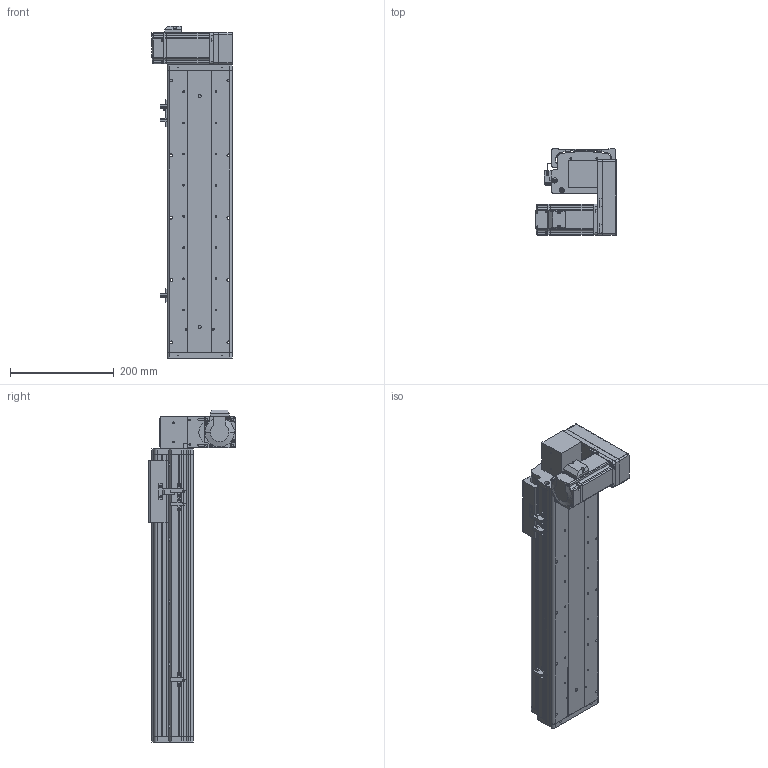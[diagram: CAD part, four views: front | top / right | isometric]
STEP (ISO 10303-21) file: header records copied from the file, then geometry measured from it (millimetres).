
FILE_DESCRIPTION (( 'STEP AP214' ), '1' );
FILE_NAME ('KSD125B-S350-MLD-CM.STEP', '2017-10-21T02:14:05', ( '微软用户' ), ( '微软中国' ), 'SwSTEP 2.0', 'SolidWorks 2014', '' );
FILE_SCHEMA (( 'AUTOMOTIVE_DESIGN' ));
Length unit declared in the file: millimetre
Products named in the file (17): 悵誘欶奻狟殏; 100宽马达安装板连板上下折丝杆同步带; HTPA30S3M150_A_H6_a佪裝蚚; HTPA30S3M150_A_H6_a萇儂蚚; 100宽马达安装板同步带左; KSD125模组350行程同步带-防尘盖; 125模组350行程同步带-底板; MHMD042G1CA_2_03; KSD125模组同步带-防撞垫2; 覜茼え68遵圉猾敕; U倰嫖萇假蚾璃; U倰嫖萇EEㄜSX672; KSD125模组同步带-防撞垫1; 前端板-125宽模组同步带; 125模组同步带-尾端板1; KSD125模组同步带-滑动座1; KSD125B-S350-MLD-CM
Assembly tree (20 placements, depth 2):
  KSD125B-S350-MLD-CM
    KSD125模组同步带-滑动座1
    125模组同步带-尾端板1
    前端板-125宽模组同步带
    KSD125模组同步带-防撞垫1
    U倰嫖萇EEㄜSX672  x3
    U倰嫖萇假蚾璃  x3
    覜茼え68遵圉猾敕
    KSD125模组同步带-防撞垫2
    MHMD042G1CA_2_03
    125模组350行程同步带-底板
    KSD125模组350行程同步带-防尘盖
    100宽马达安装板同步带左
    HTPA30S3M150_A_H6_a萇儂蚚
    HTPA30S3M150_A_H6_a佪裝蚚
    100宽马达安装板连板上下折丝杆同步带
    悵誘欶奻狟殏
Bounding box: 155 x 166.5 x 639 mm (x, y, z)
Volume: 2190873.6 mm3; surface area: 773617.4 mm2
Topology: 19 solids, 22 shells, 2217 faces, 6415 edges, 4238 vertices
Faces by surface type: cylinder 1372, plane 718, cone 105, bspline 22
Entity records: 78401 total; most frequent: CARTESIAN_POINT 15525, DIRECTION 12200, ORIENTED_EDGE 11350, EDGE_CURVE 5753, AXIS2_PLACEMENT_3D 4701, VERTEX_POINT 3830, LINE 2798, VECTOR 2798
